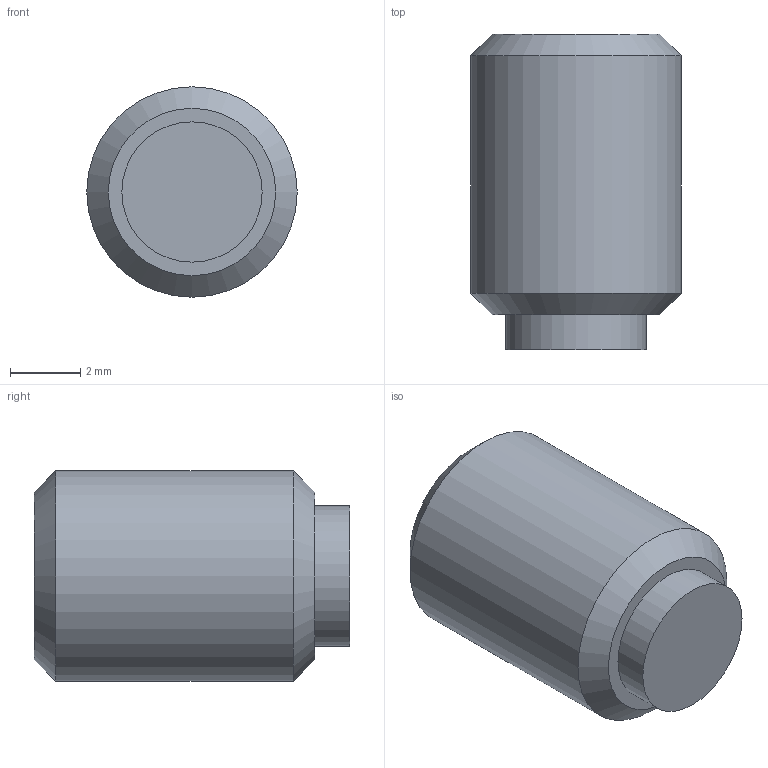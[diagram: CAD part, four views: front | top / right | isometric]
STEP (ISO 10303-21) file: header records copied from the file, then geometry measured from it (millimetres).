
FILE_DESCRIPTION( ( 'STEP AP203' ), '1' );
FILE_NAME( 'C:/Temp/Ganter_Step_05_03_2020/data/3_2/gn913_3/Grub screw GN 913.3-M6-8-MS.stp', '2020-03-13T05:35:47', ( 'License CC BY-ND 4.0' ), ( 'CADENAS' ), ' ', 'PARTsolutions', ' ' );
FILE_SCHEMA( ( 'CONFIG_CONTROL_DESIGN' ) );
Length unit declared in the file: millimetre
Products named in the file (1): _Grub screw GN 913.3-M6-8-MS
Bounding box: 6 x 9 x 6 mm (x, y, z)
Volume: 204.9 mm3; surface area: 241.8 mm2
Topology: 1 solids, 1 shells, 14 faces, 28 edges, 18 vertices
Faces by surface type: plane 10, cylinder 2, cone 2
Full cylindrical faces by diameter (mm): 4 x1, 6 x1
Entity records: 386 total; most frequent: DIRECTION 60, CARTESIAN_POINT 57, ORIENTED_EDGE 48, EDGE_CURVE 24, AXIS2_PLACEMENT_3D 21, EDGE_LOOP 20, VERTEX_POINT 18, LINE 18
